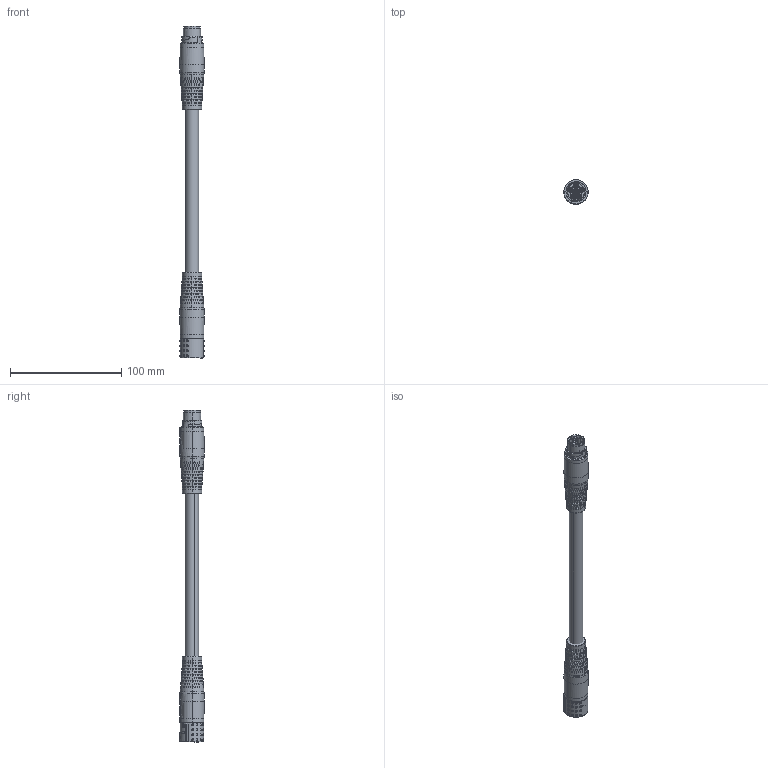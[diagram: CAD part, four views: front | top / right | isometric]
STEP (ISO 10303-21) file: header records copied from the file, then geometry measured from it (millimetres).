
FILE_DESCRIPTION (( 'STEP AP214' ), '1' );
FILE_NAME ('W-TEC 15M STI-BU.STEP', '2021-07-15T14:57:50', ( '' ), ( '' ), 'SwSTEP 2.0', 'SolidWorks 2021', '' );
FILE_SCHEMA (( 'AUTOMOTIVE_DESIGN' ));
Length unit declared in the file: millimetre
Products named in the file (1): W-TEC 15M STI-BU
Bounding box: 21.76 x 21.83 x 298 mm (x, y, z)
Surface area: 25418.1 mm2 (no closed solid volume)
Topology: 0 solids, 15 shells, 1419 faces, 3924 edges, 2471 vertices
Faces by surface type: bspline 615, plane 441, cylinder 253, cone 94, torus 16
Entity records: 88946 total; most frequent: CARTESIAN_POINT 44425, ORIENTED_EDGE 7448, DIRECTION 4678, EDGE_CURVE 3793, VERTEX_POINT 2471, AXIS2_PLACEMENT_3D 1783, EDGE_LOOP 1517, ADVANCED_FACE 1419
